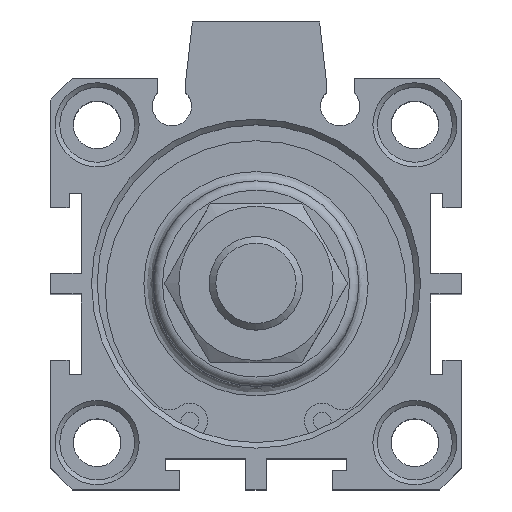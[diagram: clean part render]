
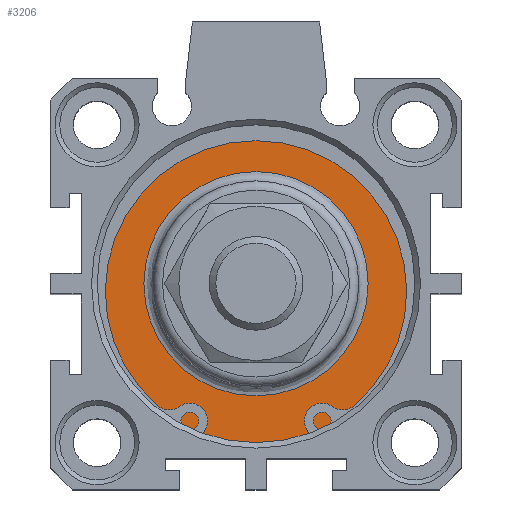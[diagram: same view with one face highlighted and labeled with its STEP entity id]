
A CAD part, top view. The second image highlights one B-rep face of the part: STEP entity #3206.
In plain terms, the highlighted planar face has unit normal (0, 0, 1).
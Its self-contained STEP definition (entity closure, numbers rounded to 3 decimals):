
#3155=CARTESIAN_POINT('',(2.273,12.598,40.8));
#3156=VERTEX_POINT('',#3155);
#3157=CARTESIAN_POINT('',(2.273,0.598,40.8));
#3158=DIRECTION('',(0.0,0.0,1.0));
#3159=DIRECTION('',(0.0,-1.0,0.0));
#3160=AXIS2_PLACEMENT_3D('',#3157,#3158,#3159);
#3161=CIRCLE('',#3160,12.0);
#3162=EDGE_CURVE('',#3156,#3156,#3161,.T.);
#3187=CARTESIAN_POINT('',(2.273,14.598,40.8));
#3188=DIRECTION('',(0.0,0.0,1.0));
#3189=DIRECTION('',(1.0,0.0,0.0));
#3190=AXIS2_PLACEMENT_3D('',#3187,#3188,#3189);
#3191=PLANE('',#3190);
#3192=CARTESIAN_POINT('',(2.273,17.598,40.8));
#3193=VERTEX_POINT('',#3192);
#3194=CARTESIAN_POINT('',(2.273,0.598,40.8));
#3195=DIRECTION('',(0.0,0.0,-1.0));
#3196=DIRECTION('',(0.0,1.0,0.0));
#3197=AXIS2_PLACEMENT_3D('',#3194,#3195,#3196);
#3198=CIRCLE('',#3197,17.);
#3199=EDGE_CURVE('',#3193,#3193,#3198,.T.);
#3200=ORIENTED_EDGE('',*,*,#3199,.F.);
#3201=EDGE_LOOP('',(#3200));
#3202=FACE_OUTER_BOUND('',#3201,.T.);
#3203=ORIENTED_EDGE('',*,*,#3162,.F.);
#3204=EDGE_LOOP('',(#3203));
#3205=FACE_BOUND('',#3204,.T.);
#3206=ADVANCED_FACE('',(#3202,#3205),#3191,.T.);
